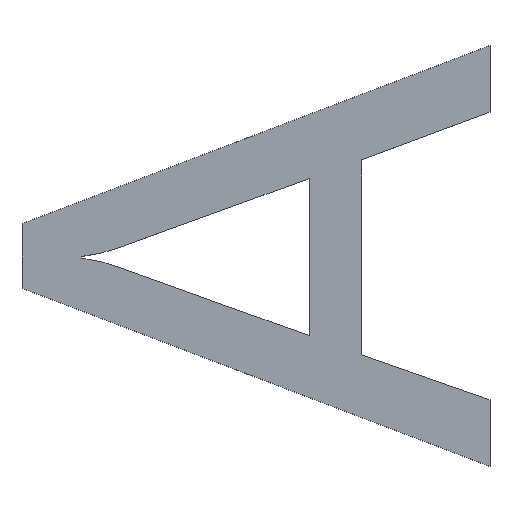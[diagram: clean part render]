
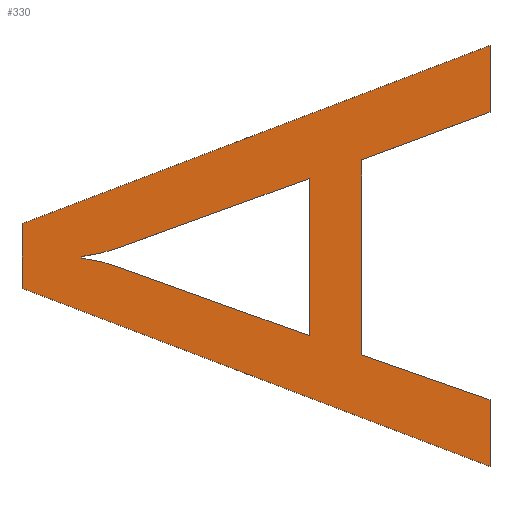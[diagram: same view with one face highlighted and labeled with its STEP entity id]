
A CAD part, top view. The second image highlights one B-rep face of the part: STEP entity #330.
In plain terms, the highlighted planar face has unit normal (0, 0, 1).
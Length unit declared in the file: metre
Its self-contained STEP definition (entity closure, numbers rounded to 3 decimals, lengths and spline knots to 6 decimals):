
#13=B_SPLINE_CURVE_WITH_KNOTS('',3,(#547,#548,#549,#550),.UNSPECIFIED.,
 .F.,.F.,(4,4),(3.,4.),.UNSPECIFIED.);
#15=B_SPLINE_CURVE_WITH_KNOTS('',3,(#572,#573,#574,#575),.UNSPECIFIED.,
 .F.,.F.,(4,4),(1.,2.),.UNSPECIFIED.);
#88=ORIENTED_EDGE('',*,*,#119,.F.);
#89=ORIENTED_EDGE('',*,*,#104,.F.);
#90=ORIENTED_EDGE('',*,*,#108,.F.);
#91=ORIENTED_EDGE('',*,*,#111,.F.);
#92=ORIENTED_EDGE('',*,*,#114,.F.);
#93=ORIENTED_EDGE('',*,*,#117,.F.);
#94=ORIENTED_EDGE('',*,*,#143,.T.);
#95=ORIENTED_EDGE('',*,*,#140,.T.);
#96=ORIENTED_EDGE('',*,*,#137,.T.);
#97=ORIENTED_EDGE('',*,*,#134,.T.);
#98=ORIENTED_EDGE('',*,*,#131,.T.);
#99=ORIENTED_EDGE('',*,*,#128,.T.);
#100=ORIENTED_EDGE('',*,*,#125,.T.);
#101=ORIENTED_EDGE('',*,*,#122,.T.);
#104=EDGE_CURVE('',#146,#147,#174,.T.);
#108=EDGE_CURVE('',#149,#146,#13,.T.);
#111=EDGE_CURVE('',#151,#149,#179,.T.);
#114=EDGE_CURVE('',#153,#151,#15,.T.);
#117=EDGE_CURVE('',#155,#153,#183,.T.);
#119=EDGE_CURVE('',#147,#155,#185,.T.);
#122=EDGE_CURVE('',#159,#158,#188,.T.);
#125=EDGE_CURVE('',#161,#159,#191,.T.);
#128=EDGE_CURVE('',#163,#161,#194,.T.);
#131=EDGE_CURVE('',#165,#163,#197,.T.);
#134=EDGE_CURVE('',#167,#165,#200,.T.);
#137=EDGE_CURVE('',#169,#167,#203,.T.);
#140=EDGE_CURVE('',#171,#169,#206,.T.);
#143=EDGE_CURVE('',#158,#171,#209,.T.);
#146=VERTEX_POINT('',#528);
#147=VERTEX_POINT('',#530);
#149=VERTEX_POINT('',#546);
#151=VERTEX_POINT('',#555);
#153=VERTEX_POINT('',#571);
#155=VERTEX_POINT('',#580);
#158=VERTEX_POINT('',#590);
#159=VERTEX_POINT('',#592);
#161=VERTEX_POINT('',#598);
#163=VERTEX_POINT('',#604);
#165=VERTEX_POINT('',#610);
#167=VERTEX_POINT('',#616);
#169=VERTEX_POINT('',#622);
#171=VERTEX_POINT('',#628);
#174=LINE('',#529,#212);
#179=LINE('',#556,#217);
#183=LINE('',#581,#221);
#185=LINE('',#584,#223);
#188=LINE('',#591,#226);
#191=LINE('',#597,#229);
#194=LINE('',#603,#232);
#197=LINE('',#609,#235);
#200=LINE('',#615,#238);
#203=LINE('',#621,#241);
#206=LINE('',#627,#244);
#209=LINE('',#632,#247);
#212=VECTOR('',#460,1.);
#217=VECTOR('',#467,1.);
#221=VECTOR('',#473,1.);
#223=VECTOR('',#477,1.);
#226=VECTOR('',#482,1.);
#229=VECTOR('',#487,1.);
#232=VECTOR('',#492,1.);
#235=VECTOR('',#497,1.);
#238=VECTOR('',#502,1.);
#241=VECTOR('',#507,1.);
#244=VECTOR('',#512,1.);
#247=VECTOR('',#517,1.);
#264=EDGE_LOOP('',(#88,#89,#90,#91,#92,#93));
#265=EDGE_LOOP('',(#94,#95,#96,#97,#98,#99,#100,#101));
#282=FACE_BOUND('',#264,.T.);
#283=FACE_BOUND('',#265,.T.);
#297=PLANE('',#453);
#330=ADVANCED_FACE('',(#282,#283),#297,.F.);
#453=AXIS2_PLACEMENT_3D('',#634,#520,#521);
#460=DIRECTION('',(0.941,-0.339,0.));
#467=DIRECTION('',(0.,-1.,0.));
#473=DIRECTION('',(-0.94,-0.342,0.));
#477=DIRECTION('',(0.,1.,0.));
#482=DIRECTION('',(0.,1.,0.));
#487=DIRECTION('',(0.937,0.349,0.));
#492=DIRECTION('',(0.,1.,0.));
#497=DIRECTION('',(-0.943,0.332,0.));
#502=DIRECTION('',(0.,1.,0.));
#507=DIRECTION('',(0.935,-0.356,0.));
#512=DIRECTION('',(0.,-1.,0.));
#517=DIRECTION('',(-0.935,-0.356,0.));
#520=DIRECTION('',(0.,0.,-1.));
#521=DIRECTION('',(1.,0.,0.));
#528=CARTESIAN_POINT('',(-0.070727,-0.022846,0.010548));
#529=CARTESIAN_POINT('',(-0.070727,-0.022846,0.010548));
#530=CARTESIAN_POINT('',(-0.070701,-0.022855,0.010548));
#546=CARTESIAN_POINT('',(-0.070731,-0.022845,0.010548));
#547=CARTESIAN_POINT('',(-0.070731,-0.022845,0.010548));
#548=CARTESIAN_POINT('',(-0.070729,-0.022845,0.010548));
#549=CARTESIAN_POINT('',(-0.070728,-0.022845,0.010548));
#550=CARTESIAN_POINT('',(-0.070727,-0.022846,0.010548));
#555=CARTESIAN_POINT('',(-0.070731,-0.022845,0.010548));
#556=CARTESIAN_POINT('',(-0.070731,-0.022845,0.010548));
#571=CARTESIAN_POINT('',(-0.070727,-0.022844,0.010548));
#572=CARTESIAN_POINT('',(-0.070727,-0.022844,0.010548));
#573=CARTESIAN_POINT('',(-0.070727,-0.022844,0.010548));
#574=CARTESIAN_POINT('',(-0.070729,-0.022844,0.010548));
#575=CARTESIAN_POINT('',(-0.070731,-0.022845,0.010548));
#580=CARTESIAN_POINT('',(-0.070701,-0.022835,0.010548));
#581=CARTESIAN_POINT('',(-0.070701,-0.022835,0.010548));
#584=CARTESIAN_POINT('',(-0.070701,-0.022855,0.010548));
#590=CARTESIAN_POINT('',(-0.070678,-0.022817,0.010548));
#591=CARTESIAN_POINT('',(-0.070678,-0.022817,0.010548));
#592=CARTESIAN_POINT('',(-0.070678,-0.022826,0.010548));
#597=CARTESIAN_POINT('',(-0.070678,-0.022826,0.010548));
#598=CARTESIAN_POINT('',(-0.070694,-0.022832,0.010548));
#603=CARTESIAN_POINT('',(-0.070694,-0.022832,0.010548));
#604=CARTESIAN_POINT('',(-0.070694,-0.022857,0.010548));
#609=CARTESIAN_POINT('',(-0.070694,-0.022857,0.010548));
#610=CARTESIAN_POINT('',(-0.070678,-0.022863,0.010548));
#615=CARTESIAN_POINT('',(-0.070678,-0.022863,0.010548));
#616=CARTESIAN_POINT('',(-0.070678,-0.022872,0.010548));
#621=CARTESIAN_POINT('',(-0.070678,-0.022872,0.010548));
#622=CARTESIAN_POINT('',(-0.070739,-0.022849,0.010548));
#627=CARTESIAN_POINT('',(-0.070739,-0.022849,0.010548));
#628=CARTESIAN_POINT('',(-0.070739,-0.02284,0.010548));
#632=CARTESIAN_POINT('',(-0.070739,-0.02284,0.010548));
#634=CARTESIAN_POINT('',(-0.0704,-0.024012,0.010548));
